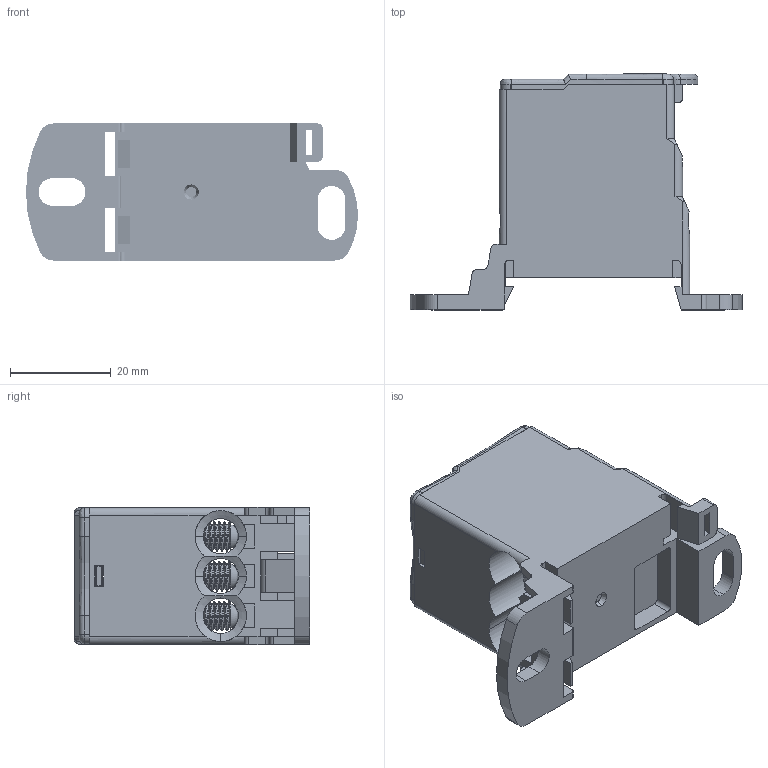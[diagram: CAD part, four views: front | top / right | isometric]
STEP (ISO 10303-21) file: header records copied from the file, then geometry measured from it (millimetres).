
FILE_DESCRIPTION (( 'STEP AP203' ), '1' );
FILE_NAME ('FJ80A.STEP', '2023-01-12T08:34:03', ( '' ), ( '' ), 'SwSTEP 2.0', 'SolidWorks 2019', '' );
FILE_SCHEMA (( 'CONFIG_CONTROL_DESIGN' ));
Products named in the file (1): FJ80A
Bounding box: 65.9 x 46.8 x 27.2 mm (x, y, z)
Volume: 19321 mm3; surface area: 23819.3 mm2
Topology: 10 solids, 10 shells, 1475 faces, 4248 edges, 2800 vertices
Faces by surface type: cylinder 982, plane 273, bspline 169, cone 51
Entity records: 186325 total; most frequent: CARTESIAN_POINT 152467, ORIENTED_EDGE 8496, DIRECTION 4789, EDGE_CURVE 4248, VERTEX_POINT 2800, B_SPLINE_CURVE_WITH_KNOTS 2368, AXIS2_PLACEMENT_3D 1621, EDGE_LOOP 1550
